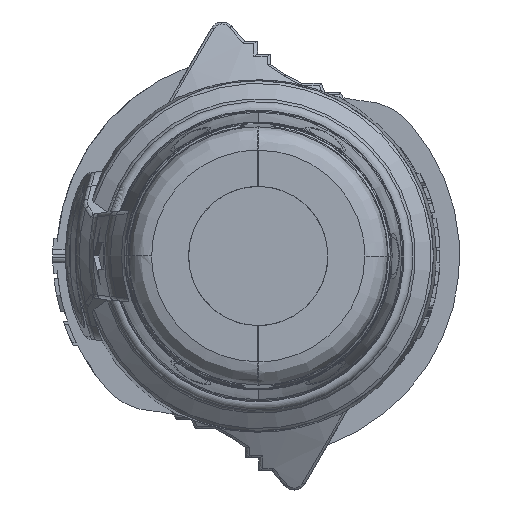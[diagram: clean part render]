
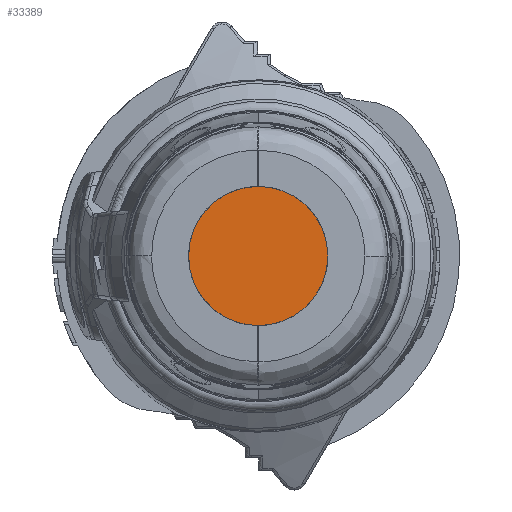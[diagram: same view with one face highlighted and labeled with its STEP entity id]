
A CAD part, left-side view. The second image highlights one B-rep face of the part: STEP entity #33389.
In plain terms, the highlighted planar face has unit normal (-1, 0, 0).
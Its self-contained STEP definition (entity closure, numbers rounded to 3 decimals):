
#8324=CARTESIAN_POINT('',(-171.,0.,0.));
#8325=DIRECTION('',(-1.,0.,0.));
#8326=DIRECTION('',(0.,0.,-1.));
#8327=AXIS2_PLACEMENT_3D('',#8324,#8325,#8326);
#8329=CARTESIAN_POINT('',(-171.,0.,0.));
#8330=DIRECTION('',(-1.,0.,0.));
#8331=DIRECTION('',(0.,0.,1.));
#8332=AXIS2_PLACEMENT_3D('',#8329,#8330,#8331);
#27726=CARTESIAN_POINT('',(-171.,0.,-5.35));
#27727=CARTESIAN_POINT('',(-171.,0.,5.35));
#27728=VERTEX_POINT('',#27726);
#27729=VERTEX_POINT('',#27727);
#33380=CARTESIAN_POINT('',(-171.,0.,0.));
#33381=DIRECTION('',(-1.,0.,0.));
#33382=DIRECTION('',(0.,0.,-1.));
#33383=AXIS2_PLACEMENT_3D('',#33380,#33381,#33382);
#33384=PLANE('',#33383);
#33385=ORIENTED_EDGE('',*,*,#33086,.F.);
#33386=ORIENTED_EDGE('',*,*,#33037,.F.);
#33387=EDGE_LOOP('',(#33385,#33386));
#33388=FACE_OUTER_BOUND('',#33387,.F.);
#33389=ADVANCED_FACE('',(#33388),#33384,.T.);
#8328=CIRCLE('',#8327,5.35);
#8333=CIRCLE('',#8332,5.35);
#33037=EDGE_CURVE('',#27729,#27728,#8333,.T.);
#33086=EDGE_CURVE('',#27728,#27729,#8328,.T.);
